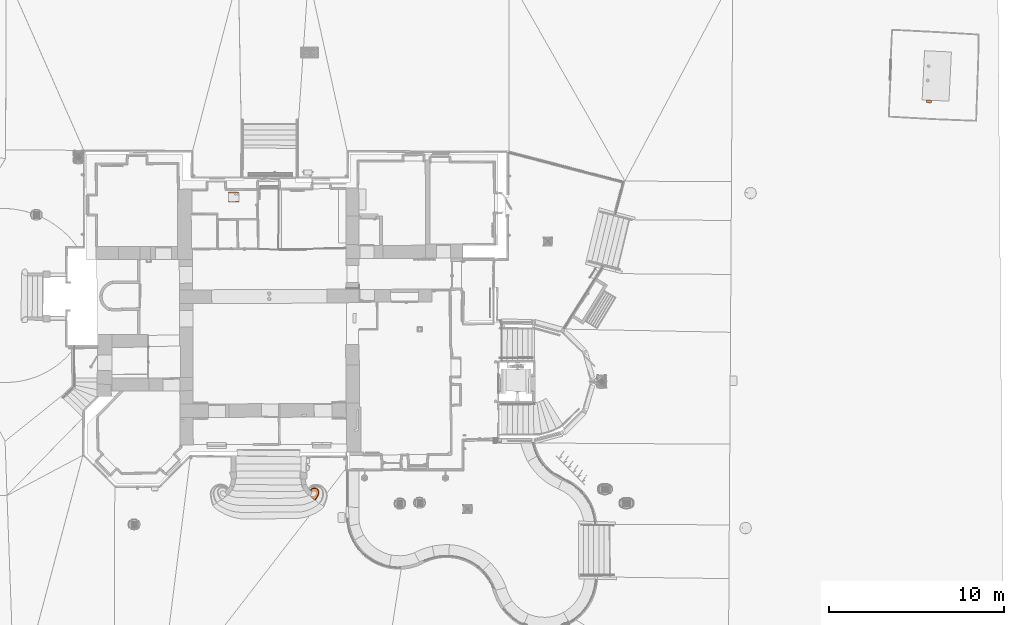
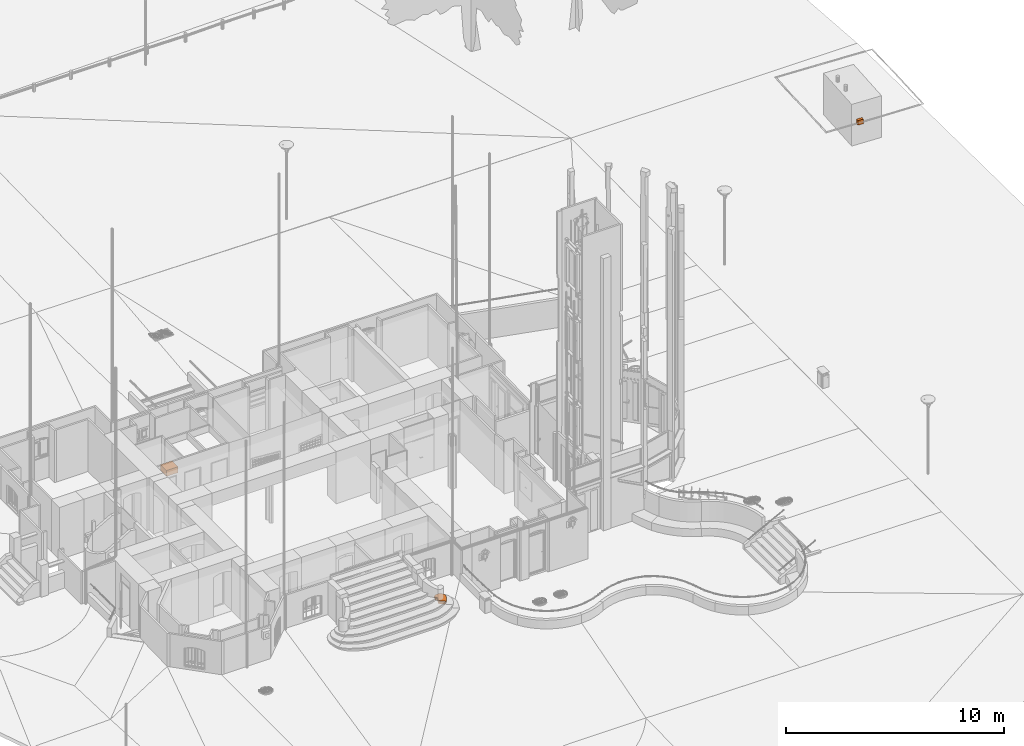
# One storey, part 133 of 133: 4 proxies.
"""IFC2X3 building model written with IfcOpenShell, lengths in centimetres."""

from ifc_helpers import new_model, entity, si_unit, converted_unit, direction, frame, origin, origin_with_axes, place, context, subcontext, project, spatial, faceted_brep, material, element, save


model = new_model("IFC2X3")

# Units and contexts
model_context = context("Model", 3, precision=0.0001, world=origin(), true_north=direction((0.225632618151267, 0.974212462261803, 0.0)))
body_context = subcontext(model_context, "Body", "Model", "MODEL_VIEW")
ifc_project = project(units=[si_unit("LENGTHUNIT", "METRE", prefix="CENTI"), si_unit("AREAUNIT", "SQUARE_METRE", prefix="CENTI"), si_unit("VOLUMEUNIT", "CUBIC_METRE", prefix="CENTI"), converted_unit("PLANEANGLEUNIT", "DEGREE", entity("IfcRatioMeasure", 0.0174532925), si_unit("PLANEANGLEUNIT", "RADIAN"), dimensions=[0, 0, 0, 0, 0, 0, 0])], contexts=[model_context])

# Site, building, storey
site_placement = place(None, origin_with_axes())
site = spatial("IfcSite", under=ifc_project, at=site_placement, Name="Default Site", CompositionType="ELEMENT")
building_placement = place(site_placement, origin_with_axes())
building = spatial("IfcBuilding", under=site, at=building_placement, Name="Default Building", CompositionType="ELEMENT")
storey_placement = place(building_placement, frame((0.0, 0.0, -291.400371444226), z_axis=(0.0, 0.0, 1.0), x_axis=(1.0, 0.0, 0.0)))
storey = spatial("IfcBuildingStorey", under=building, at=storey_placement, Name="Rez-de-Jardin", CompositionType="ELEMENT", Elevation=-291.400371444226)

# Proxies
ifc_material_1 = material(Name="Blanc")
proxy_1_placement = place(storey_placement, frame((3541.85, 1043.16, 225.0), z_axis=(0.0, 0.0, 1.0), x_axis=(1.0, 0.0, 0.0)))
element("IfcBuildingElementProxy", 1, at=proxy_1_placement, inside=storey, material=ifc_material_1, Name="Encombrement 1824236", context=body_context, shape_type="Brep", body=[
    faceted_brep([(-0.000100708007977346, -3.82995606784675e-05, 26.0000004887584), (28.2900756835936, -1.61003128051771, 26.0000004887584), (29.1361755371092, 13.2596586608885, 26.0000004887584), (0.731558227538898, 14.6758650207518, 26.0000004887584), (-0.000100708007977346, -3.82995606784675e-05, -1.53779956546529e-06), (28.2900747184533, -1.61004823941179, -1.53779956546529e-06), (28.2900747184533, -1.61004823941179, 26.0000004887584), (28.2900756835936, -1.61003128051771, -1.53779956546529e-06), (29.1363177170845, 13.2596505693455, -1.53779956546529e-06), (29.1363177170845, 13.2596505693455, 26.0000004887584), (29.1361755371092, 13.2596586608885, -1.53779956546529e-06), (0.731559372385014, 14.6758879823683, -1.53779956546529e-06), (0.731559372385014, 14.6758879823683, 26.0000004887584), (0.731558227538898, 14.6758650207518, -1.53779956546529e-06), (-0.000169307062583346, -3.48792718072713e-05, -1.53779956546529e-06), (-0.000169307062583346, -3.48792718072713e-05, 26.0000004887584)], [[[0, 1, 2, 3]], [[4, 5, 6, 0]], [[7, 8, 9, 1]], [[10, 11, 12, 2]], [[13, 14, 15, 3]], [[13, 10, 7, 4]]]),
])
proxy_2_placement = place(storey_placement, frame((-439.303208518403, 476.975573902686, 0.0), z_axis=(0.0, 0.0, 1.0), x_axis=(1.0, 0.0, 0.0)))
element("IfcBuildingElementProxy", 2, at=proxy_2_placement, inside=storey, material=ifc_material_1, Name="Encombrement 78032", context=body_context, shape_type="Brep", body=[
    faceted_brep([(1.12094253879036e-06, 1.01274653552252e-05, 33.0000027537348), (60.0480806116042, -0.0675576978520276, 33.0000027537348), (59.92286317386, 54.6714407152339, 33.0000027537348), (0.390387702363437, 55.0311666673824, 33.0000027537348), (1.12094253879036e-06, 1.01274653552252e-05, 1.03831293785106e-05), (60.0480806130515, -0.0675564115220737, 1.03831293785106e-05), (60.0480806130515, -0.0675564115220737, 33.0000027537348), (60.0480806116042, -0.0675576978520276, 1.03831293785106e-05), (59.9228753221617, 54.6714407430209, 1.03831293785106e-05), (59.9228753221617, 54.6714407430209, 33.0000027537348), (59.92286317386, 54.6714407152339, 1.03831293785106e-05), (0.390387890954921, 55.0311978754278, 1.03831293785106e-05), (0.390387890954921, 55.0311978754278, 33.0000027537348), (0.390387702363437, 55.0311666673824, 1.03831293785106e-05), (-2.58365932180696e-06, 1.01537457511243e-05, 1.03831293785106e-05), (-2.58365932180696e-06, 1.01537457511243e-05, 33.0000027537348)], [[[0, 1, 2, 3]], [[4, 5, 6, 0]], [[7, 8, 9, 1]], [[10, 11, 12, 2]], [[13, 14, 15, 3]], [[13, 10, 7, 4]]]),
])
ifc_material_2 = material(Name="Béton (01)")
proxy_3_placement = place(storey_placement, frame((26.5348214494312, -1166.18089697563, 155.6), z_axis=(0.0, 0.0, 1.0), x_axis=(1.0, 0.0, 0.0)))
element("IfcBuildingElementProxy", 3, at=proxy_3_placement, inside=storey, material=ifc_material_2, Name="Encombrement 348054", context=body_context, shape_type="Brep", body=[
    faceted_brep([(1.13376733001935e-06, 2.16594386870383e-07, 5.49150494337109), (10.6984477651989, -12.1691701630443, 5.49150494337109), (1.14138835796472, -36.117839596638, 5.49150494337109), (29.9887996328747, -59.3619344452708, 5.49150494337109), (36.029873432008, -51.9375798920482, 5.49150494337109), (41.2552755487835, -43.9182279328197, 5.49150494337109), (45.6068676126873, -35.3929517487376, 5.49150494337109), (49.0362208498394, -26.4568326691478, 5.49150494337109), (51.5051763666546, -17.209148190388, 5.49150494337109), (51.3869147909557, -12.1821401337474, 5.49150494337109), (50.3623467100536, -7.25917794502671, 5.49150494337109), (48.4652023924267, -2.60238625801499, 5.49150494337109), (45.7579177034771, 1.63497946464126, 5.49150494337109), (42.3296075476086, 5.31349203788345, 5.49150494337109), (38.2931094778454, 8.31203482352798, 5.49150494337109), (33.7812762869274, 10.5319978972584, 5.49150494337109), (28.9426069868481, 11.9001390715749, 5.49150494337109), (23.9363711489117, 12.3716356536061, 5.49150494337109), (18.9273309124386, 11.9309427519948, 5.49150494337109), (14.0803616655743, 10.592365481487, 5.49150494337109), (9.55499225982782, 8.40015433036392, 5.49150494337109), (1.13376733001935e-06, 2.16594386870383e-07, -2.11000414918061e-06), (10.6984341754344, -12.16918211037, -2.11000414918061e-06), (10.6984341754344, -12.16918211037, 5.49150494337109), (10.6984477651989, -12.1691701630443, -2.11000414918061e-06), (1.14137911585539, -36.1178359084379, -2.11000414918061e-06), (1.14137911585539, -36.1178359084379, 5.49150494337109), (1.14138835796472, -36.117839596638, -2.11000414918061e-06), (29.9888031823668, -59.3619300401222, -2.11000414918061e-06), (29.9888031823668, -59.3619300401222, 5.49150494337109), (29.9887996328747, -59.3619344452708, -2.11000414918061e-06), (36.0298746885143, -51.9375809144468, -2.11000414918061e-06), (36.0298746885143, -51.9375809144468, 5.49150494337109), (36.029873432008, -51.9375798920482, -2.11000414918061e-06), (41.2552540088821, -43.9182138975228, -2.11000414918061e-06), (41.2552540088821, -43.9182138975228, 5.49150494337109), (41.2552755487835, -43.9182279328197, -2.11000414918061e-06), (45.6068891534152, -35.3929627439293, -2.11000414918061e-06), (45.6068891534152, -35.3929627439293, 5.49150494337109), (45.6068676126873, -35.3929517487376, -2.11000414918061e-06), (49.0362037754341, -26.4568261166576, -2.11000414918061e-06), (49.0362037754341, -26.4568261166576, 5.49150494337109), (49.0362208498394, -26.4568326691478, -2.11000414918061e-06), (51.5051787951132, -17.2091488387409, -2.11000414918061e-06), (51.5051787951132, -17.2091488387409, 5.49150494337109), (51.5051763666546, -17.209148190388, -2.11000414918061e-06), (51.3869097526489, -12.1821402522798, -2.11000414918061e-06), (51.3869097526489, -12.1821402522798, 5.49150494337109), (51.3869147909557, -12.1821401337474, -2.11000414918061e-06), (50.3623362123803, -7.25918012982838, -2.11000414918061e-06), (50.3623362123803, -7.25918012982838, 5.49150494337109), (50.3623467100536, -7.25917794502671, -2.11000414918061e-06), (48.465196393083, -2.60238870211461, -2.11000414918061e-06), (48.465196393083, -2.60238870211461, 5.49150494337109), (48.4652023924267, -2.60238625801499, -2.11000414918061e-06), (45.7579252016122, 1.63498425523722, -2.11000414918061e-06), (45.7579252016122, 1.63498425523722, 5.49150494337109), (45.7579177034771, 1.63497946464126, -2.11000414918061e-06), (42.3296052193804, 5.3134898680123, -2.11000414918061e-06), (42.3296052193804, 5.3134898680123, 5.49150494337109), (42.3296075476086, 5.31349203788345, -2.11000414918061e-06), (38.2931196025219, 8.31204845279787, -2.11000414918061e-06), (38.2931196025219, 8.31204845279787, 5.49150494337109), (38.2931094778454, 8.31203482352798, -2.11000414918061e-06), (33.7812626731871, 10.5319702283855, -2.11000414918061e-06), (33.7812626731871, 10.5319702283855, 5.49150494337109), (33.7812762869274, 10.5319978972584, -2.11000414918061e-06), (28.9426294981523, 11.9002186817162, -2.11000414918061e-06), (28.9426294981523, 11.9002186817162, 5.49150494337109), (28.9426069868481, 11.9001390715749, -2.11000414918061e-06), (23.9363704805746, 12.3716285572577, -2.11000414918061e-06), (23.9363704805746, 12.3716285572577, 5.49150494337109), (23.9363711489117, 12.3716356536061, -2.11000414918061e-06), (18.9273372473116, 11.9308707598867, -2.11000414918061e-06), (18.9273372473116, 11.9308707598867, 5.49150494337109), (18.9273309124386, 11.9309427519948, -2.11000414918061e-06), (14.0803451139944, 10.5924254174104, -2.11000414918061e-06), (14.0803451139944, 10.5924254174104, 5.49150494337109), (14.0803616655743, 10.592365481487, -2.11000414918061e-06), (9.55498982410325, 8.40015935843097, -2.11000414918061e-06), (9.55498982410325, 8.40015935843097, 5.49150494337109), (9.55499225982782, 8.40015433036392, -2.11000414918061e-06), (1.84842651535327e-05, -1.95191342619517e-05, -2.11000414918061e-06), (1.84842651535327e-05, -1.95191342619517e-05, 5.49150494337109)], [[[0, 1, 2, 3, 4, 5, 6, 7, 8, 9, 10, 11, 12, 13, 14, 15, 16, 17, 18, 19, 20]], [[21, 22, 23, 0]], [[24, 25, 26, 1]], [[27, 28, 29, 2]], [[30, 31, 32, 3]], [[33, 34, 35, 4]], [[36, 37, 38, 5]], [[39, 40, 41, 6]], [[42, 43, 44, 7]], [[45, 46, 47, 8]], [[48, 49, 50, 9]], [[51, 52, 53, 10]], [[54, 55, 56, 11]], [[57, 58, 59, 12]], [[60, 61, 62, 13]], [[63, 64, 65, 14]], [[66, 67, 68, 15]], [[69, 70, 71, 16]], [[72, 73, 74, 17]], [[75, 76, 77, 18]], [[78, 79, 80, 19]], [[81, 82, 83, 20]], [[81, 78, 75, 72, 69, 66, 63, 60, 57, 54, 51, 48, 45, 42, 39, 36, 33, 30, 27, 24, 21]]]),
])
proxy_4_placement = place(storey_placement, frame((29.6662400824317, -1169.18960856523, 144.8), z_axis=(0.0, 0.0, 1.0), x_axis=(1.0, 0.0, 0.0)))
element("IfcBuildingElementProxy", 4, at=proxy_4_placement, inside=storey, material=ifc_material_2, Name="Encombrement 348053", context=body_context, shape_type="Brep", body=[
    faceted_brep([(-1.05922306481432e-06, -3.52946377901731e-05, 10.7915101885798), (7.17430008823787, -9.33202458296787, 10.7915101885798), (-2.31024430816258, -33.0989236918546, 10.7915101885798), (20.5246020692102, -54.3177003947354, 10.7915101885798), (27.4288464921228, -48.0124826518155, 10.7915101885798), (33.3988655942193, -40.8164377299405, 10.7915101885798), (38.3208741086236, -32.866608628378, 10.7915101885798), (42.1010483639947, -24.3147249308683, 10.7915101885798), (44.6673382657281, -15.3237695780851, 10.7915101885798), (44.8424030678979, -11.085831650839, 10.7915101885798), (44.2745317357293, -6.88241673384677, 10.7915101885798), (42.9811765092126, -2.84293843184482, 10.7915101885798), (41.0021115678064, 0.908625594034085, 10.7915101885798), (38.3981872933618, 4.25678538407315, 10.7915101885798), (35.2494586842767, 7.09863947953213, 10.7915101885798), (31.6527415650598, 9.34683131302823, 10.7915101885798), (27.7186263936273, 10.9321241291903, 10.7915101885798), (23.5680748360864, 11.8059759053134, 10.7915101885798), (19.3287004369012, 11.9413976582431, 10.7915101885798), (15.1308496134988, 11.3341932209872, 10.7915101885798), (11.1035962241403, 10.0030546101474, 10.7915101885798), (7.37076295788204, 7.98898982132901, 10.7915101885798), (-1.05922306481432e-06, -3.52946377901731e-05, 5.80549268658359e-06), (7.17430313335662, -9.33202224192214, 5.80549268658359e-06), (7.17430313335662, -9.33202224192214, 10.7915101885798), (7.17430008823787, -9.33202458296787, 5.80549268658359e-06), (-2.3102336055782, -33.0989279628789, 5.80549268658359e-06), (-2.3102336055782, -33.0989279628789, 10.7915101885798), (-2.31024430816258, -33.0989236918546, 5.80549268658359e-06), (20.5245986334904, -54.3177040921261, 5.80549268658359e-06), (20.5245986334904, -54.3177040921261, 10.7915101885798), (20.5246020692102, -54.3177003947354, 5.80549268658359e-06), (27.4288380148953, -48.0124733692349, 5.80549268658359e-06), (27.4288380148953, -48.0124733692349, 10.7915101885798), (27.4288464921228, -48.0124826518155, 5.80549268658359e-06), (33.3988543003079, -40.8164283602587, 5.80549268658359e-06), (33.3988543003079, -40.8164283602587, 10.7915101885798), (33.3988655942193, -40.8164377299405, 5.80549268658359e-06), (38.3209101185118, -32.8666309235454, 5.80549268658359e-06), (38.3209101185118, -32.8666309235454, 10.7915101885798), (38.3208741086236, -32.866608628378, 5.80549268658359e-06), (42.1010451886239, -24.314723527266, 5.80549268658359e-06), (42.1010451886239, -24.314723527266, 10.7915101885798), (42.1010483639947, -24.3147249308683, 5.80549268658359e-06), (44.6673174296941, -15.3237636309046, 5.80549268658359e-06), (44.6673174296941, -15.3237636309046, 10.7915101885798), (44.6673382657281, -15.3237695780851, 5.80549268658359e-06), (44.8424051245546, -11.0858317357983, 5.80549268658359e-06), (44.8424051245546, -11.0858317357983, 10.7915101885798), (44.8424030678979, -11.085831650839, 5.80549268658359e-06), (44.2745211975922, -6.88241815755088, 5.80549268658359e-06), (44.2745211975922, -6.88241815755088, 10.7915101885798), (44.2745317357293, -6.88241673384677, 5.80549268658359e-06), (42.9811964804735, -2.84293203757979, 5.80549268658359e-06), (42.9811964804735, -2.84293203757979, 10.7915101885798), (42.9811765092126, -2.84293843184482, 5.80549268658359e-06), (41.0020949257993, 0.908616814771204, 5.80549268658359e-06), (41.0020949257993, 0.908616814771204, 10.7915101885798), (41.0021115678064, 0.908625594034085, 5.80549268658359e-06), (38.3981860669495, 4.25678443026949, 5.80549268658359e-06), (38.3981860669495, 4.25678443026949, 10.7915101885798), (38.3981872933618, 4.25678538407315, 5.80549268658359e-06), (35.2494593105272, 7.09864017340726, 5.80549268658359e-06), (35.2494593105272, 7.09864017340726, 10.7915101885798), (35.2494586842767, 7.09863947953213, 5.80549268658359e-06), (31.6527323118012, 9.34681650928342, 5.80549268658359e-06), (31.6527323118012, 9.34681650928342, 10.7915101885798), (31.6527415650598, 9.34683131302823, 5.80549268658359e-06), (27.7186501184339, 10.9321830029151, 5.80549268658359e-06), (27.7186501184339, 10.9321830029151, 10.7915101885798), (27.7186263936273, 10.9321241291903, 5.80549268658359e-06), (23.568065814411, 11.8059330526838, 5.80549268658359e-06), (23.568065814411, 11.8059330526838, 10.7915101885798), (23.5680748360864, 11.8059759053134, 5.80549268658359e-06), (19.3286993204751, 11.9413626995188, 5.80549268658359e-06), (19.3286993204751, 11.9413626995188, 10.7915101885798), (19.3287004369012, 11.9413976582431, 5.80549268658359e-06), (15.1308485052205, 11.334200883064, 5.80549268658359e-06), (15.1308485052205, 11.334200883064, 10.7915101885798), (15.1308496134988, 11.3341932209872, 5.80549268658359e-06), (11.1035877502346, 10.0030802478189, 5.80549268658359e-06), (11.1035877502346, 10.0030802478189, 10.7915101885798), (11.1035962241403, 10.0030546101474, 5.80549268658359e-06), (7.3707763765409, 7.98896495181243, 5.80549268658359e-06), (7.3707763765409, 7.98896495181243, 10.7915101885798), (7.37076295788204, 7.98898982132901, 5.80549268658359e-06), (-3.99074130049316e-05, 5.47486902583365e-07, 5.80549268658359e-06), (-3.99074130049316e-05, 5.47486902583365e-07, 10.7915101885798)], [[[0, 1, 2, 3, 4, 5, 6, 7, 8, 9, 10, 11, 12, 13, 14, 15, 16, 17, 18, 19, 20, 21]], [[22, 23, 24, 0]], [[25, 26, 27, 1]], [[28, 29, 30, 2]], [[31, 32, 33, 3]], [[34, 35, 36, 4]], [[37, 38, 39, 5]], [[40, 41, 42, 6]], [[43, 44, 45, 7]], [[46, 47, 48, 8]], [[49, 50, 51, 9]], [[52, 53, 54, 10]], [[55, 56, 57, 11]], [[58, 59, 60, 12]], [[61, 62, 63, 13]], [[64, 65, 66, 14]], [[67, 68, 69, 15]], [[70, 71, 72, 16]], [[73, 74, 75, 17]], [[76, 77, 78, 18]], [[79, 80, 81, 19]], [[82, 83, 84, 20]], [[85, 86, 87, 21]], [[85, 82, 79, 76, 73, 70, 67, 64, 61, 58, 55, 52, 49, 46, 43, 40, 37, 34, 31, 28, 25, 22]]]),
])

save(model, "model.ifc")
